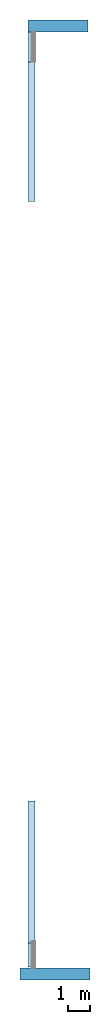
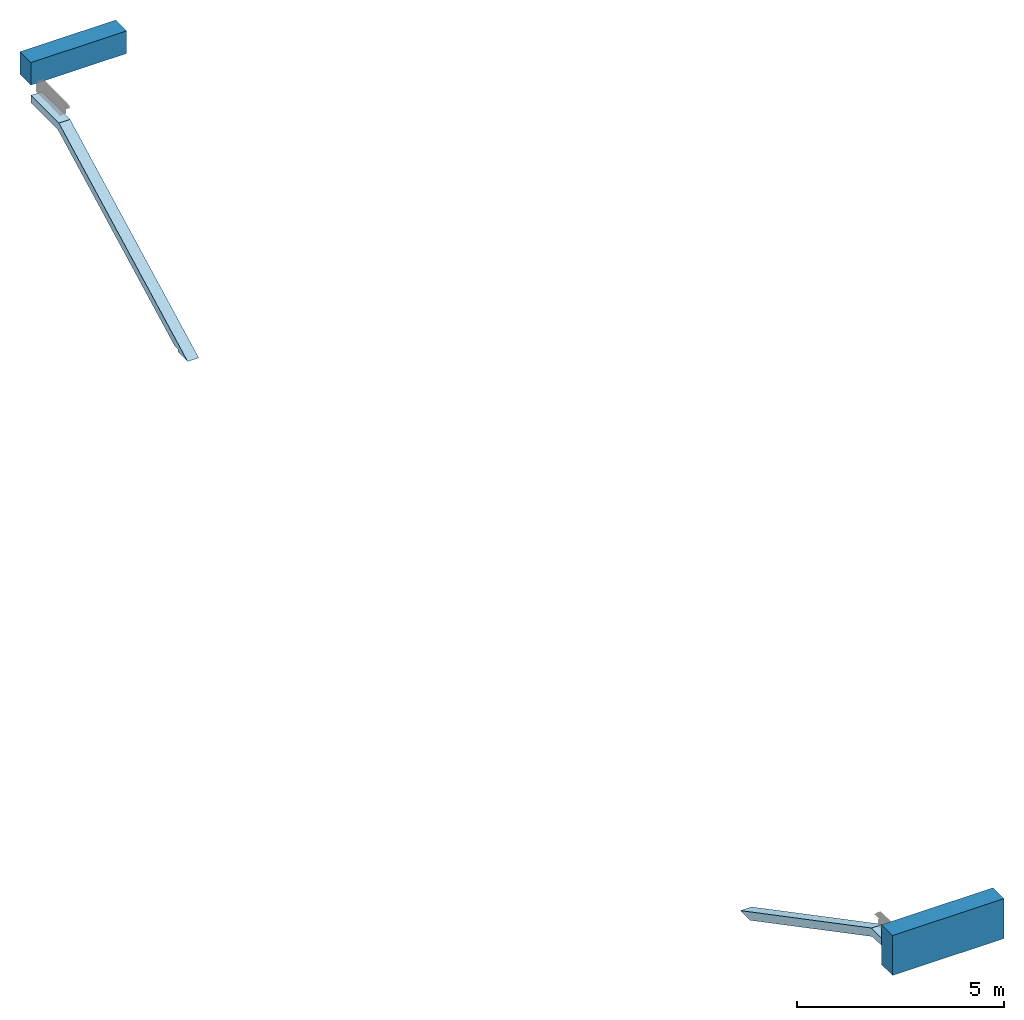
# One storey, part 1 of 3: 2 slabs, 2 walls.
"""IFC2X3 building model written with IfcOpenShell, lengths in millimetres."""

import ifcopenshell
import ifcopenshell.guid

model = None  # the IFC model being written
_history = None  # IfcOwnerHistory: only IFC2X3 demands one
_inside = {}  # id of a spatial element -> (the spatial element, [elements in it])
_under = {}  # id of a project, library or spatial element -> (it, [spatial elements below it])
_declared = {}  # id of a project -> (the project, [libraries it declares])
_typed = {}  # id of a type object -> (the type object, [elements of that type])
_made_of = {}  # id of a material, layer set ... -> (it, [elements and type objects made of it])


def new_model(schema):
    """Start an empty IFC model of exactly this schema.

    Asked for "IFC4X3", IfcOpenShell would pick the latest addendum, in which some entities
    have other attributes; the version numbers below select the first issue.
    IFC2X3 requires an IfcOwnerHistory on every rooted entity: one is made here for all.
    """
    global model, _history
    if schema == "IFC4X3":
        model = ifcopenshell.file(schema_version=(4, 3, 0, 0))
    else:
        model = ifcopenshell.file(schema=schema)
    _inside.clear()
    _under.clear()
    _declared.clear()
    _typed.clear()
    _made_of.clear()
    _history = None
    if model.schema == "IFC2X3":
        org = make("IfcOrganization", Name="unknown")
        user = make(
            "IfcPersonAndOrganization",
            ThePerson=make("IfcPerson", FamilyName="unknown"),
            TheOrganization=org,
        )
        app = make(
            "IfcApplication",
            ApplicationDeveloper=org,
            Version="unknown",
            ApplicationFullName="unknown",
            ApplicationIdentifier="unknown",
        )
        _history = make(
            "IfcOwnerHistory",
            OwningUser=user,
            OwningApplication=app,
            ChangeAction="ADDED",
            CreationDate=0,
        )
    return model


def make(cls, **values):
    """One entity of the class cls with the attributes given. An attribute that is None is left unset."""
    return model.create_entity(
        cls, **{name: value for name, value in values.items() if value is not None}
    )


def entity(cls, *values):
    """Any entity or typed value of the class cls, its attributes in the order of the schema. None: left unset."""
    e = model.create_entity(cls)
    for i, value in enumerate(values):
        if value is not None:
            e[i] = value
    return e


def rooted(cls, **values):
    """An entity with a GlobalId (a new one), such as an element, a storey or a relation."""
    return make(cls, GlobalId=ifcopenshell.guid.new(), OwnerHistory=_history, **values)


def si_unit(unit_type, name, prefix=None):
    """IfcSIUnit, for example si_unit("LENGTHUNIT", "METRE", prefix="MILLI")."""
    return make("IfcSIUnit", UnitType=unit_type, Prefix=prefix, Name=name)


def converted_unit(unit_type, name, factor, base, dimensions=None, offset=None):
    """IfcConversionBasedUnit, such as the inch: factor (a typed value) times the base unit."""
    return make(
        "IfcConversionBasedUnit"
        if offset is None
        else "IfcConversionBasedUnitWithOffset",
        ConversionOffset=offset,
        Dimensions=None
        if dimensions is None
        else entity("IfcDimensionalExponents", *dimensions),
        UnitType=unit_type,
        Name=name,
        ConversionFactor=make(
            "IfcMeasureWithUnit", ValueComponent=factor, UnitComponent=base
        ),
    )


def derived_unit(unit_type, elements):
    """IfcDerivedUnit: a product of units, each with its exponent."""
    return make(
        "IfcDerivedUnit",
        Elements=[
            make("IfcDerivedUnitElement", Unit=unit, Exponent=power)
            for unit, power in elements
        ],
        UnitType=unit_type,
    )


def assignment(units):
    """IfcUnitAssignment: the units of a project."""
    return None if units is None else make("IfcUnitAssignment", Units=units)


def point(xyz):
    """IfcCartesianPoint."""
    return None if xyz is None else make("IfcCartesianPoint", Coordinates=xyz)


def direction(xyz):
    """IfcDirection."""
    return None if xyz is None else make("IfcDirection", DirectionRatios=xyz)


def frame(location, z_axis=None, x_axis=None):
    """IfcAxis2Placement3D, a coordinate frame: its origin and axes. An axis left out is left unset."""
    return make(
        "IfcAxis2Placement3D",
        Location=point(location),
        Axis=direction(z_axis),
        RefDirection=direction(x_axis),
    )


def frame_2d(location, x_axis=None):
    """IfcAxis2Placement2D, a coordinate frame in the plane: its origin and x axis."""
    return make(
        "IfcAxis2Placement2D", Location=point(location), RefDirection=direction(x_axis)
    )


def origin():
    """The frame at (0, 0, 0) with its axes left unset."""
    return frame((0.0, 0.0, 0.0))


def place(relative_to, where):
    """IfcLocalPlacement: puts the frame where relative to a parent placement (None: the world)."""
    return make(
        "IfcLocalPlacement", PlacementRelTo=relative_to, RelativePlacement=where
    )


def context(
    kind, dimensions, precision=None, world=None, true_north=None, identifier=None
):
    """IfcGeometricRepresentationContext, for example the 3D "Model" context."""
    return make(
        "IfcGeometricRepresentationContext",
        ContextIdentifier=identifier,
        ContextType=kind,
        CoordinateSpaceDimension=dimensions,
        Precision=precision,
        WorldCoordinateSystem=world,
        TrueNorth=true_north,
    )


def subcontext(parent, identifier, kind, view, scale=None):
    """IfcGeometricRepresentationSubContext, for example "Body" below "Model"."""
    return make(
        "IfcGeometricRepresentationSubContext",
        ContextIdentifier=identifier,
        ContextType=kind,
        ParentContext=parent,
        TargetScale=scale,
        TargetView=view,
    )


def project(units=None, contexts=None):
    """IfcProject with its units and contexts."""
    return rooted(
        "IfcProject",
        Name="project",
        RepresentationContexts=contexts,
        UnitsInContext=assignment(units),
    )


def spatial(cls, under=None, at=None, **own):
    """A site, building, storey or space (cls), placed at a placement, below another one or the project."""
    s = rooted(cls, ObjectPlacement=at, **own)
    if under is not None:
        _under.setdefault(under.id(), (under, []))[1].append(s)
    return s


def polyline(points):
    """IfcPolyline through the points."""
    return make("IfcPolyline", Points=[point(p) for p in points])


def profile(cls, at=None, kind="AREA", **sizes):
    """A parametric profile (cls). Its sizes go by their IFC names, for example OverallWidth=200.0."""
    return make(cls, ProfileType=kind, Position=at, **sizes)


def rectangle(**sizes):
    """IfcRectangleProfileDef."""
    return profile("IfcRectangleProfileDef", **sizes)


def outline(outer, holes=None, kind="AREA"):
    """IfcArbitraryClosedProfileDef: a profile drawn as a closed curve; with holes, ...WithVoids."""
    if holes is None:
        return make("IfcArbitraryClosedProfileDef", ProfileType=kind, OuterCurve=outer)
    return make(
        "IfcArbitraryProfileDefWithVoids",
        ProfileType=kind,
        OuterCurve=outer,
        InnerCurves=holes,
    )


def extrude(swept, where, along, depth):
    """IfcExtrudedAreaSolid: the profile swept, set in the frame where, extruded along a direction by depth."""
    return make(
        "IfcExtrudedAreaSolid",
        SweptArea=swept,
        Position=where,
        ExtrudedDirection=direction(along),
        Depth=depth,
    )


def clip(a, b, op="DIFFERENCE"):
    """IfcBooleanClippingResult: the solid a cut by the half space b."""
    return make(
        "IfcBooleanClippingResult", Operator=op, FirstOperand=a, SecondOperand=b
    )


def bounded_halfspace(plane, agree, where, boundary):
    """IfcPolygonalBoundedHalfSpace: a half space limited to a polygon's prism."""
    return make(
        "IfcPolygonalBoundedHalfSpace",
        BaseSurface=make("IfcPlane", Position=plane),
        AgreementFlag=agree,
        Position=where,
        PolygonalBoundary=boundary,
    )


def faces_of(points, faces, orient=None, outer=None):
    """IfcFace entities. A face is a list of loops; a loop is a list of indices into points, from 0.

    orient and outer hold one flag for each loop. By default every Orientation is true, the
    first loop of a face is its IfcFaceOuterBound and the others are IfcFaceBound.
    """
    made = []
    for i, loops in enumerate(faces):
        bounds = []
        for j, loop in enumerate(loops):
            is_outer = j == 0 if outer is None else outer[i][j]
            bounds.append(
                make(
                    "IfcFaceOuterBound" if is_outer else "IfcFaceBound",
                    Bound=make("IfcPolyLoop", Polygon=[points[k] for k in loop]),
                    Orientation=True if orient is None else orient[i][j],
                )
            )
        made.append(make("IfcFace", Bounds=bounds))
    return made


def faceted_brep(points, faces, orient=None, outer=None, voids=None):
    """IfcFacetedBrep: a solid bounded by flat faces; with voids (closed shells), ...WithVoids."""
    shared = [point(p) for p in points]
    hull = make("IfcClosedShell", CfsFaces=faces_of(shared, faces, orient, outer))
    if voids is None:
        return make("IfcFacetedBrep", Outer=hull)
    return make(
        "IfcFacetedBrepWithVoids",
        Outer=hull,
        Voids=[
            make(cls, CfsFaces=faces_of(shared, fs, o, b)) for cls, fs, o, b in voids
        ],
    )


def shape(context_of_items, identifier, shape_type, items):
    """IfcShapeRepresentation: the items that make up one representation, for example the "Body"."""
    return make(
        "IfcShapeRepresentation",
        ContextOfItems=context_of_items,
        RepresentationIdentifier=identifier,
        RepresentationType=shape_type,
        Items=items,
    )


def material(Name=None, Category=None):
    """IfcMaterial."""
    return make("IfcMaterial", Name=Name, Category=Category)


def layer(
    of_material, thickness, ventilated=None, Name=None, Category=None, Priority=None
):
    """IfcMaterialLayer: one layer of a wall or slab, of a material (None: an air gap)."""
    return make(
        "IfcMaterialLayer",
        Material=of_material,
        LayerThickness=thickness,
        IsVentilated=ventilated,
        Name=Name,
        Category=Category,
        Priority=Priority,
    )


def layer_set(layers, Name=None):
    """IfcMaterialLayerSet."""
    return make("IfcMaterialLayerSet", MaterialLayers=layers, LayerSetName=Name)


def layer_usage(for_layer_set, set_direction, sense, offset, extent=None):
    """IfcMaterialLayerSetUsage: how a layer set lies in its element."""
    return make(
        "IfcMaterialLayerSetUsage",
        ForLayerSet=for_layer_set,
        LayerSetDirection=set_direction,
        DirectionSense=sense,
        OffsetFromReferenceLine=offset,
        ReferenceExtent=extent,
    )


def made_of(thing, what):
    """Note that an element or type object is made of a material, layer set ...; save() writes the relation."""
    if what is not None:
        _made_of.setdefault(what.id(), (what, []))[1].append(thing)
    return thing


def type_object(cls, material=None, **own):
    """A type object (cls), such as IfcWallType, which elements share."""
    return made_of(rooted(cls, **own), material)


def element(
    cls,
    number,
    at=None,
    inside=None,
    cuts=None,
    type_object=None,
    material=None,
    context=None,
    identifier="Body",
    shape_type=None,
    held_by="IfcProductDefinitionShape",
    body=None,
    shapes=None,
    **own,
):
    """One element of the class cls, such as IfcWall. Its Tag is "e" and its number.

    at: its placement. inside: the storey or other place that contains it. cuts: it is an
    opening in that element (IfcRelVoidsElement). A single representation is given by context,
    identifier, shape_type and body (its items); several are given by shapes. held_by: the class
    of the entity that holds the representations. save() writes the other relations.
    """
    e = rooted(cls, Tag="e%d" % number, ObjectPlacement=at, **own)
    if body is not None:
        shapes = [shape(context, identifier, shape_type, body)]
    if shapes is not None:
        e.Representation = make(held_by, Representations=shapes)
    if inside is not None:
        _inside.setdefault(inside.id(), (inside, []))[1].append(e)
    if cuts is not None:
        rooted(
            "IfcRelVoidsElement", RelatingBuildingElement=cuts, RelatedOpeningElement=e
        )
    if type_object is not None:
        _typed.setdefault(type_object.id(), (type_object, []))[1].append(e)
    return made_of(e, material)


def aggregate(whole, parts):
    """IfcRelAggregates: a whole, such as a stair, and the parts it consists of."""
    return rooted("IfcRelAggregates", RelatingObject=whole, RelatedObjects=parts)


def save(model, path):
    """Write the relations noted so far, then the file.

    IfcRelAggregates (storeys below a building ...), IfcRelContainedInSpatialStructure (elements
    in a storey), IfcRelDefinesByType, IfcRelAssociatesMaterial and IfcRelDeclares: one each for
    every whole, place, type object, material and project.
    """
    for whole, parts in _under.values():
        aggregate(whole, parts)
    for where, things in _inside.values():
        rooted(
            "IfcRelContainedInSpatialStructure",
            RelatedElements=things,
            RelatingStructure=where,
        )
    for kind, things in _typed.values():
        rooted("IfcRelDefinesByType", RelatedObjects=things, RelatingType=kind)
    for what, things in _made_of.values():
        rooted("IfcRelAssociatesMaterial", RelatedObjects=things, RelatingMaterial=what)
    for by, libraries in _declared.values():
        rooted("IfcRelDeclares", RelatingContext=by, RelatedDefinitions=libraries)
    model.write(path)


model = new_model("IFC2X3")

# Units and contexts
model_context = context("Model", 3, precision=0.01, world=origin(), true_north=direction((6.123031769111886e-17, 1.0)))
body_context = subcontext(model_context, "Body", "Model", "MODEL_VIEW")
ifc_project = project(units=[si_unit("LENGTHUNIT", "METRE", prefix="MILLI"), si_unit("AREAUNIT", "SQUARE_METRE"), si_unit("VOLUMEUNIT", "CUBIC_METRE"), converted_unit("PLANEANGLEUNIT", "DEGREE", entity("IfcPlaneAngleMeasure", 0.017453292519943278), si_unit("PLANEANGLEUNIT", "RADIAN"), dimensions=[0, 0, 0, 0, 0, 0, 0]), si_unit("MASSUNIT", "GRAM", prefix="KILO"), derived_unit("MASSDENSITYUNIT", [(si_unit("MASSUNIT", "GRAM", prefix="KILO"), 1), (si_unit("LENGTHUNIT", "METRE"), -3)]), derived_unit("IONCONCENTRATIONUNIT", [(si_unit("MASSUNIT", "GRAM", prefix="KILO"), 1), (si_unit("LENGTHUNIT", "METRE"), -3)]), derived_unit("MOMENTOFINERTIAUNIT", [(si_unit("LENGTHUNIT", "METRE"), 4)]), si_unit("TIMEUNIT", "SECOND"), si_unit("FREQUENCYUNIT", "HERTZ"), si_unit("THERMODYNAMICTEMPERATUREUNIT", "DEGREE_CELSIUS"), derived_unit("THERMALTRANSMITTANCEUNIT", [(si_unit("MASSUNIT", "GRAM", prefix="KILO"), 1), (si_unit("THERMODYNAMICTEMPERATUREUNIT", "KELVIN"), -1), (si_unit("TIMEUNIT", "SECOND"), -3)]), derived_unit("THERMALCONDUCTANCEUNIT", [(si_unit("MASSUNIT", "GRAM", prefix="KILO"), 1), (si_unit("THERMODYNAMICTEMPERATUREUNIT", "KELVIN"), -1), (si_unit("TIMEUNIT", "SECOND"), -3), (si_unit("LENGTHUNIT", "METRE"), 1)]), derived_unit("VOLUMETRICFLOWRATEUNIT", [(si_unit("LENGTHUNIT", "METRE", prefix="DECI"), 3), (si_unit("TIMEUNIT", "SECOND"), -1)]), derived_unit("MASSFLOWRATEUNIT", [(si_unit("MASSUNIT", "GRAM", prefix="KILO"), 1), (si_unit("TIMEUNIT", "SECOND"), -1)]), derived_unit("ROTATIONALFREQUENCYUNIT", [(si_unit("TIMEUNIT", "SECOND"), -1)]), si_unit("ELECTRICCURRENTUNIT", "AMPERE"), si_unit("ELECTRICVOLTAGEUNIT", "VOLT"), si_unit("POWERUNIT", "WATT"), si_unit("FORCEUNIT", "NEWTON", prefix="KILO"), si_unit("ILLUMINANCEUNIT", "LUX"), si_unit("LUMINOUSFLUXUNIT", "LUMEN"), si_unit("LUMINOUSINTENSITYUNIT", "CANDELA"), si_unit("ENERGYUNIT", "JOULE"), derived_unit("USERDEFINED", [(si_unit("MASSUNIT", "GRAM", prefix="KILO"), -1), (si_unit("LENGTHUNIT", "METRE"), -2), (si_unit("TIMEUNIT", "SECOND"), 3), (si_unit("LUMINOUSFLUXUNIT", "LUMEN"), 1)]), derived_unit("USERDEFINED", [(si_unit("MASSUNIT", "GRAM", prefix="KILO"), 1), (si_unit("TIMEUNIT", "SECOND"), -3), (si_unit("LENGTHUNIT", "METRE"), 3), (si_unit("ELECTRICCURRENTUNIT", "AMPERE"), -2)]), derived_unit("SOUNDPOWERUNIT", [(si_unit("MASSUNIT", "GRAM", prefix="KILO"), 1), (si_unit("TIMEUNIT", "SECOND"), -3), (si_unit("LENGTHUNIT", "METRE"), 2)]), derived_unit("SOUNDPRESSUREUNIT", [(si_unit("MASSUNIT", "GRAM", prefix="KILO"), 1), (si_unit("LENGTHUNIT", "METRE"), -1), (si_unit("TIMEUNIT", "SECOND"), -2)]), derived_unit("LINEARVELOCITYUNIT", [(si_unit("LENGTHUNIT", "METRE"), 1), (si_unit("TIMEUNIT", "SECOND"), -1)]), si_unit("PRESSUREUNIT", "PASCAL"), derived_unit("USERDEFINED", [(si_unit("MASSUNIT", "GRAM", prefix="KILO"), 1), (si_unit("LENGTHUNIT", "METRE"), -2), (si_unit("TIMEUNIT", "SECOND"), -2)]), derived_unit("LINEARFORCEUNIT", [(si_unit("MASSUNIT", "GRAM", prefix="KILO"), 1), (si_unit("TIMEUNIT", "SECOND"), -2)]), derived_unit("PLANARFORCEUNIT", [(si_unit("MASSUNIT", "GRAM", prefix="KILO"), 1), (si_unit("LENGTHUNIT", "METRE"), -1), (si_unit("TIMEUNIT", "SECOND"), -2)]), derived_unit("SPECIFICHEATCAPACITYUNIT", [(si_unit("THERMODYNAMICTEMPERATUREUNIT", "KELVIN"), -1), (si_unit("LENGTHUNIT", "METRE"), 2), (si_unit("TIMEUNIT", "SECOND"), -2)]), derived_unit("HEATFLUXDENSITYUNIT", [(si_unit("MASSUNIT", "GRAM", prefix="KILO"), 1), (si_unit("TIMEUNIT", "SECOND"), -3)]), derived_unit("HEATINGVALUEUNIT", [(si_unit("LENGTHUNIT", "METRE"), 2), (si_unit("TIMEUNIT", "SECOND"), -2)]), derived_unit("VAPORPERMEABILITYUNIT", [(si_unit("LENGTHUNIT", "METRE"), -1), (si_unit("TIMEUNIT", "SECOND"), 1)]), derived_unit("DYNAMICVISCOSITYUNIT", [(si_unit("MASSUNIT", "GRAM", prefix="KILO"), 1), (si_unit("TIMEUNIT", "SECOND"), -1), (si_unit("LENGTHUNIT", "METRE"), -1)]), derived_unit("THERMALEXPANSIONCOEFFICIENTUNIT", [(si_unit("THERMODYNAMICTEMPERATUREUNIT", "KELVIN"), -1)]), derived_unit("MODULUSOFELASTICITYUNIT", [(si_unit("MASSUNIT", "GRAM", prefix="KILO"), 1), (si_unit("LENGTHUNIT", "METRE"), -1), (si_unit("TIMEUNIT", "SECOND"), -2)]), derived_unit("ISOTHERMALMOISTURECAPACITYUNIT", [(si_unit("MASSUNIT", "GRAM", prefix="KILO"), -1), (si_unit("LENGTHUNIT", "METRE"), 3)]), derived_unit("MOISTUREDIFFUSIVITYUNIT", [(si_unit("TIMEUNIT", "SECOND"), -1), (si_unit("LENGTHUNIT", "METRE"), 2)]), derived_unit("MASSPERLENGTHUNIT", [(si_unit("MASSUNIT", "GRAM", prefix="KILO"), 1), (si_unit("LENGTHUNIT", "METRE"), -1)]), derived_unit("THERMALRESISTANCEUNIT", [(si_unit("MASSUNIT", "GRAM", prefix="KILO"), -1), (si_unit("TIMEUNIT", "SECOND"), 3), (si_unit("THERMODYNAMICTEMPERATUREUNIT", "KELVIN"), 1)]), derived_unit("ACCELERATIONUNIT", [(si_unit("LENGTHUNIT", "METRE"), 1), (si_unit("TIMEUNIT", "SECOND"), -2)]), derived_unit("ANGULARVELOCITYUNIT", [(si_unit("TIMEUNIT", "SECOND"), -1), (si_unit("PLANEANGLEUNIT", "RADIAN"), 1)]), derived_unit("LINEARSTIFFNESSUNIT", [(si_unit("MASSUNIT", "GRAM", prefix="KILO"), 1), (si_unit("TIMEUNIT", "SECOND"), -2)]), derived_unit("WARPINGCONSTANTUNIT", [(si_unit("LENGTHUNIT", "METRE"), 6)]), derived_unit("LINEARMOMENTUNIT", [(si_unit("MASSUNIT", "GRAM", prefix="KILO"), 1), (si_unit("LENGTHUNIT", "METRE"), 1), (si_unit("TIMEUNIT", "SECOND"), -2)]), derived_unit("TORQUEUNIT", [(si_unit("MASSUNIT", "GRAM", prefix="KILO"), 1), (si_unit("LENGTHUNIT", "METRE"), 2), (si_unit("TIMEUNIT", "SECOND"), -2)])], contexts=[model_context])

# Site, building, storey
site_placement = place(None, origin())
site = spatial("IfcSite", under=ifc_project, at=site_placement, Name="Default", CompositionType="ELEMENT")
building_placement = place(site_placement, origin())
building = spatial("IfcBuilding", under=site, at=building_placement, Name="Eesti Rahvusraamatukogu hoone renoveerimise projekteerimistööd", CompositionType="ELEMENT")
storey_placement = place(building_placement, frame((0.0, 0.0, 14850.000000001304)))
storey = spatial("IfcBuildingStorey", under=building, at=storey_placement, Name="5. korrus", CompositionType="ELEMENT", Elevation=14850.000000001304)

# Slabs
ifc_material_1 = material(Name="LUMION_concrete stairs")
slab_type_1 = type_object("IfcSlabType", Name="Trepi alune 4K:Trepi alune 4K", PredefinedType="FLOOR", material=ifc_material_1)
slab_1_placement = place(storey_placement, frame((0.0, 0.0, -14850.000000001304)))
element("IfcSlab", 1, at=slab_1_placement, inside=storey, type_object=slab_type_1, Name="Trepi alune 4K:Trepi alune 4K", ObjectType="Trepi alune 4K:Trepi alune 4K", PredefinedType="FLOOR", context=body_context, shape_type="SweptSolid", body=[
    extrude(outline(polyline([(-3507.1436834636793, -1484.2061194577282), (-3060.7674885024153, -1484.2061194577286), (-3033.1957243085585, -1484.2061194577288), (-3031.7674885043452, -1483.4576281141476), (-3031.7674885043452, -1404.2061194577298), (-2880.5435055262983, -1404.2061194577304), (2767.588589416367, 1555.793880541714), (4001.2325114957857, 1555.7938805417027), (4061.2325114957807, 1555.7938805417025), (4061.232511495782, 1775.7938805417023), (4001.232511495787, 1775.7938805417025), (2713.4342319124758, 1775.793880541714), (-3060.7674885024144, -1250.2750578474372), (-3507.1436834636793, -1484.2061194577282)])), frame((-31920.0, 44188.76748850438, 12954.206119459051), z_axis=(1.0, 0.0, 0.0), x_axis=(0.0, 1.0, 0.0)), (0.0, 0.0, 1.0), 310.1815687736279),
])
slab_type_2 = type_object("IfcSlabType", Name="Trepi alune 4K1:Trepi alune 4K", PredefinedType="FLOOR", material=ifc_material_1)
slab_2_placement = place(storey_placement, frame((0.0, 0.0, -14850.000000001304)))
element("IfcSlab", 2, at=slab_2_placement, inside=storey, type_object=slab_type_2, Name="Trepi alune 4K1:Trepi alune 4K", ObjectType="Trepi alune 4K1:Trepi alune 4K", PredefinedType="FLOOR", context=body_context, shape_type="Brep", body=[
    faceted_brep([(-31920.0, 13978.360117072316, 11470.000000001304), (-31920.0, 13571.000000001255, 11470.000000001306), (-31920.0, 13505.258438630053, 11470.000000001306), (-31920.0, 13505.0, 11470.135748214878), (-31920.0, 13352.953742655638, 11550.000000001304), (-31920.0, 7589.158961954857, 14577.507323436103), (-31920.0, 6590.0, 14577.507323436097), (-31920.0, 6590.0, 14797.507323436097), (-31920.0, 7643.422726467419, 14797.5073234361), (-31920.0, 13571.000000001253, 11683.971139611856), (-31609.818431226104, 13505.258438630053, 11470.000000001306), (-31609.818431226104, 13978.360117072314, 11470.000000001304), (-31609.818431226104, 7589.158961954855, 14577.507323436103), (-31609.818431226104, 13505.0, 11470.135748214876), (-31609.818431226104, 13352.953742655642, 11550.000000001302), (-31609.818431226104, 7643.422726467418, 14797.5073234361), (-31609.818431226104, 13571.000000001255, 11683.971139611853), (-31609.818431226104, 6590.0, 14797.507323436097), (-31750.0, 6590.0, 14797.507323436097), (-31609.818431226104, 6590.0, 14577.507323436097), (-31609.818431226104, 6590.0, 14770.000000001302), (-31609.818431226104, 7571.000000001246, 14797.5073234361)], [[[0, 1, 2, 3, 4, 5, 6, 7, 8, 9]], [[10, 2, 1, 0, 11]], [[12, 5, 4, 3, 2, 10, 13, 14]], [[11, 0, 9, 8, 15, 16]], [[17, 18, 7, 6, 19, 20]], [[15, 8, 7, 18, 17, 21]], [[19, 6, 5, 12]], [[10, 11, 16, 15, 21, 17, 20, 19, 12, 14, 13]]]),
])

# Walls
ifc_material_2 = material(Name="ol. olev materjal")
ifc_layer = layer(ifc_material_2, 530.0)
ifc_layer_set = layer_set([ifc_layer], Name="Basic Wall:ol. olev - 530mm")
ifc_layer_usage_1 = layer_usage(ifc_layer_set, "AXIS2", "NEGATIVE", 265.0)
wall_type = type_object("IfcWallType", Name="Basic Wall:ol. olev - 530mm", PredefinedType="STANDARD", material=ifc_layer_set)
wall_1_placement = place(storey_placement, frame((-31920.0, 48515.0, 180.0)))
element("IfcWallStandardCase", 3, at=wall_1_placement, inside=storey, type_object=wall_type, material=ifc_layer_usage_1, Name="Basic Wall:ol. olev - 530mm", ObjectType="Basic Wall:ol. olev - 530mm", context=body_context, shape_type="Clipping", body=[
    clip(extrude(rectangle(XDim=2670.0000000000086, YDim=530.0000000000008, at=frame_2d((1335.0000000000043, -7.105427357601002e-13), x_axis=(-1.0, 0.0))), origin(), (0.0, 0.0, 1.0), 665.6179560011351), bounded_halfspace(frame((2670.0, -265.0, 0.0), z_axis=(0.0, 0.0, 1.0), x_axis=(0.0, 1.0, 0.0)), True, frame((2670.0, -265.0, 0.0), z_axis=(0.0, 0.0, 1.0), x_axis=(0.0, 1.0, 0.0)), polyline([(0.0, 0.0), (530.0, 0.0), (530.0, 2670.0), (0.0, 2670.0), (0.0, 0.0)]))),
])
ifc_layer_usage_2 = layer_usage(ifc_layer_set, "AXIS2", "NEGATIVE", 265.0)
wall_2_placement = place(storey_placement, frame((-32280.0, 6265.0, -330.0)))
element("IfcWallStandardCase", 4, at=wall_2_placement, inside=storey, type_object=wall_type, material=ifc_layer_usage_2, Name="Basic Wall:ol. olev - 530mm", ObjectType="Basic Wall:ol. olev - 530mm", context=body_context, shape_type="SweptSolid", body=[
    extrude(rectangle(XDim=3108.8823971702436, YDim=530.0000000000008, at=frame_2d((1554.4411985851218, 0.0), x_axis=(-1.0, 0.0))), origin(), (0.0, 0.0, 1.0), 1178.2222379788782),
])

save(model, "model.ifc")
